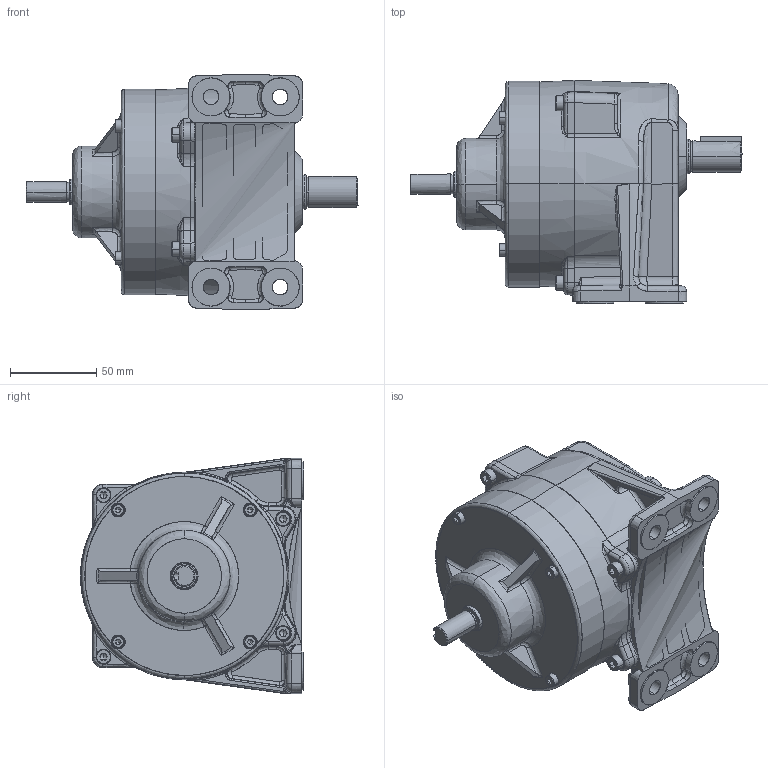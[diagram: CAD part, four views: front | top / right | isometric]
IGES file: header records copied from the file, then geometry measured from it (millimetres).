
Start section: SolidWorks IGES file using analytic representation for surfaces
Bounding box: 192 x 129 x 136.3 mm (x, y, z)
Surface area: 188927.8 mm2 (no closed solid volume)
Topology: 0 solids, 0 shells, 936 faces, 11922 edges, 11870 vertices
Faces by surface type: bspline 508, revolution 428
